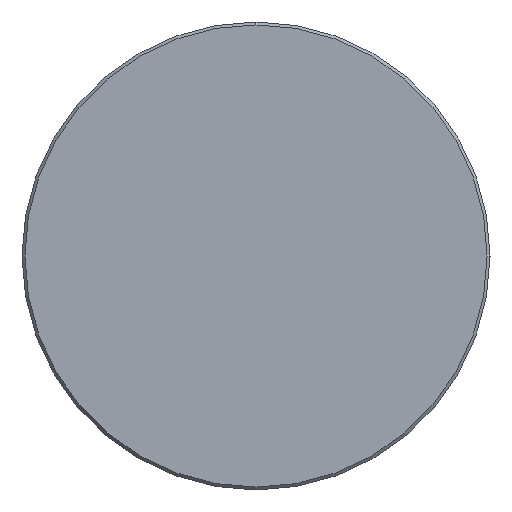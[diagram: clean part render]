
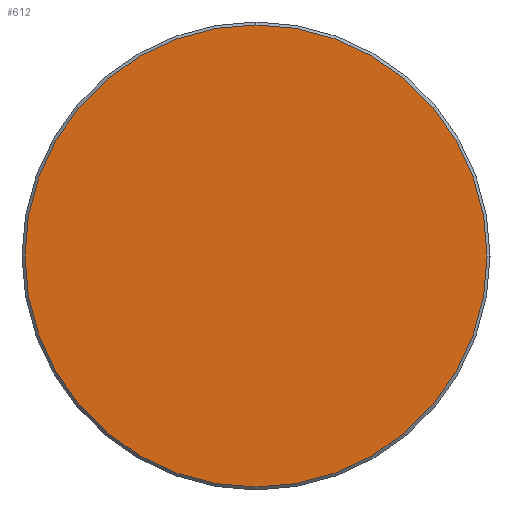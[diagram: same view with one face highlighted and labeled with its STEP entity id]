
A CAD part, left-side view. The second image highlights one B-rep face of the part: STEP entity #612.
In plain terms, the highlighted planar face has unit normal (-1, 0, 0).
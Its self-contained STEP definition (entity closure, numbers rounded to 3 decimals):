
#10 = DIRECTION ( 'NONE',  ( -1., 0., 0. ) ) ;
#15 = VERTEX_POINT ( 'NONE', #592 ) ;
#36 = CIRCLE ( 'NONE', #796, 15.8 ) ;
#68 = PLANE ( 'NONE',  #71 ) ;
#71 = AXIS2_PLACEMENT_3D ( 'NONE', #138, #586, #197 ) ;
#75 = DIRECTION ( 'NONE',  ( -1., 0., 0. ) ) ;
#138 = CARTESIAN_POINT ( 'NONE',  ( 0., 0., 0. ) ) ;
#163 = VERTEX_POINT ( 'NONE', #209 ) ;
#171 = EDGE_CURVE ( 'NONE', #15, #163, #411, .T. ) ;
#197 = DIRECTION ( 'NONE',  ( 0., 0., -1. ) ) ;
#209 = CARTESIAN_POINT ( 'NONE',  ( 0., 0., 15.8 ) ) ;
#211 = FACE_OUTER_BOUND ( 'NONE', #568, .T. ) ;
#233 = ORIENTED_EDGE ( 'NONE', *, *, #672, .T. ) ;
#405 = CARTESIAN_POINT ( 'NONE',  ( 0., 0., 0. ) ) ;
#411 = CIRCLE ( 'NONE', #736, 15.8 ) ;
#455 = CARTESIAN_POINT ( 'NONE',  ( 0., 0., 0. ) ) ;
#464 = DIRECTION ( 'NONE',  ( 0., 0., 1. ) ) ;
#522 = DIRECTION ( 'NONE',  ( 0., 0., 1. ) ) ;
#568 = EDGE_LOOP ( 'NONE', ( #775, #233 ) ) ;
#586 = DIRECTION ( 'NONE',  ( 1., 0., 0. ) ) ;
#592 = CARTESIAN_POINT ( 'NONE',  ( 0., 0., -15.8 ) ) ;
#612 = ADVANCED_FACE ( 'NONE', ( #211 ), #68, .F. ) ;
#672 = EDGE_CURVE ( 'NONE', #163, #15, #36, .T. ) ;
#736 = AXIS2_PLACEMENT_3D ( 'NONE', #405, #10, #464 ) ;
#775 = ORIENTED_EDGE ( 'NONE', *, *, #171, .T. ) ;
#796 = AXIS2_PLACEMENT_3D ( 'NONE', #455, #75, #522 ) ;
